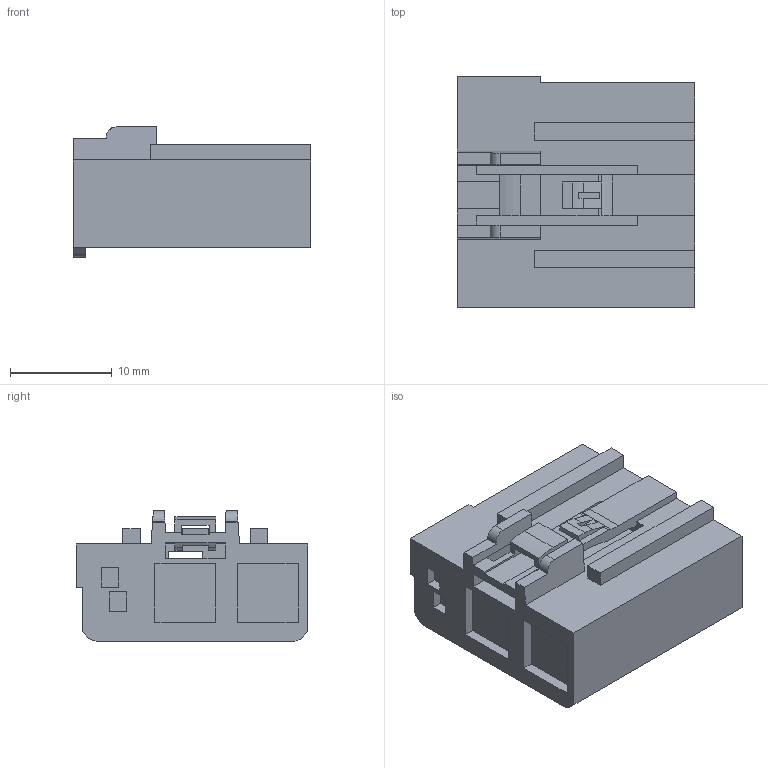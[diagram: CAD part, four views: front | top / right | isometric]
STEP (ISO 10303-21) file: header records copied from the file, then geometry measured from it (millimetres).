
FILE_DESCRIPTION(('CATIA V5 STEP','CAx-IF Rec.Pracs.--- Model Styling and Organization---1.5--- 2016-08-15','CAx-IF Rec.Pracs.---Supplemental Geometry---1.0---2011-11-01','CAx-IF Rec.Pracs.--- Composite Materials ---1.1---2010-07-15'),'2;1');
FILE_NAME('\\fss02.ad.sws.co.jp\fs100070\事務・購入\特命業務\特-35ｰ部品総合カタログメンテナンス\26年度\WEBカタログ用3D\260612_webカタログ新規登録用簡易3D\モデル保存場所\HFD-U2シリーズ\6099-0496.stp','2026-06-25T09:12:10+00:00',('none'),('none'),'CATIA Version 5-6 Release 2021 SP5 HF44','CATIA V5 STEP AP214 v2','none');
FILE_SCHEMA(('AUTOMOTIVE_DESIGN { 1 0 10303 214 1 1 1 1 }'));
Length unit declared in the file: millimetre
Products named in the file (1): 6099-0496
Bounding box: 23.4 x 22.8 x 12.8 mm (x, y, z)
Volume: 4514.2 mm3; surface area: 2536.1 mm2
Topology: 1 solids, 1 shells, 142 faces, 405 edges, 269 vertices
Faces by surface type: plane 131, cylinder 11
Entity records: 4468 total; most frequent: CARTESIAN_POINT 869, ORIENTED_EDGE 810, DIRECTION 616, EDGE_CURVE 405, VECTOR 381, LINE 381, VERTEX_POINT 269, EDGE_LOOP 154
